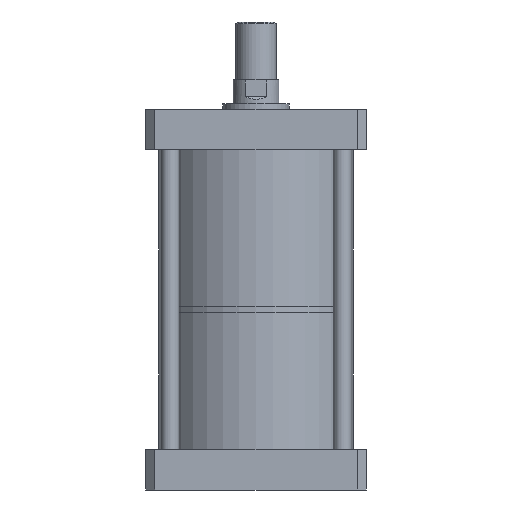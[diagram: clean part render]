
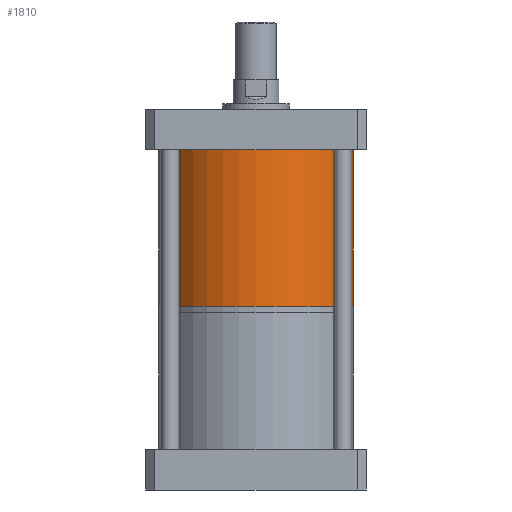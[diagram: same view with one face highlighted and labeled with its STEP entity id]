
A CAD part, front view. The second image highlights one B-rep face of the part: STEP entity #1810.
In plain terms, the highlighted cylindrical face has radius 53 mm (diameter 106 mm), a partial arc.
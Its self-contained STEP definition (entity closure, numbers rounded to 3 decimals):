
#19 = CIRCLE ( 'NONE', #3684, 53. ) ;
#214 = EDGE_CURVE ( 'NONE', #262, #695, #19, .T. ) ;
#262 = VERTEX_POINT ( 'NONE', #2976 ) ;
#265 = DIRECTION ( 'NONE',  ( -1., 0., 0. ) ) ;
#385 = ORIENTED_EDGE ( 'NONE', *, *, #2845, .T. ) ;
#563 = CARTESIAN_POINT ( 'NONE',  ( 24.746, 0., 0. ) ) ;
#602 = FACE_OUTER_BOUND ( 'NONE', #3369, .T. ) ;
#695 = VERTEX_POINT ( 'NONE', #1117 ) ;
#751 = VECTOR ( 'NONE', #760, 1000. ) ;
#760 = DIRECTION ( 'NONE',  ( 0., 0., 1. ) ) ;
#776 = CARTESIAN_POINT ( 'NONE',  ( -28.254, 0., -85. ) ) ;
#869 = ORIENTED_EDGE ( 'NONE', *, *, #3006, .T. ) ;
#1117 = CARTESIAN_POINT ( 'NONE',  ( -28.254, 0., -85. ) ) ;
#1159 = CARTESIAN_POINT ( 'NONE',  ( -28.254, 0., 0. ) ) ;
#1354 = ORIENTED_EDGE ( 'NONE', *, *, #1921, .F. ) ;
#1436 = AXIS2_PLACEMENT_3D ( 'NONE', #1546, #1582, #1612 ) ;
#1546 = CARTESIAN_POINT ( 'NONE',  ( 24.746, 0., -85. ) ) ;
#1582 = DIRECTION ( 'NONE',  ( 0., 0., 1. ) ) ;
#1612 = DIRECTION ( 'NONE',  ( 1., 0., 0. ) ) ;
#1755 = CIRCLE ( 'NONE', #2677, 53. ) ;
#1810 = ADVANCED_FACE ( 'NONE', ( #602 ), #3616, .T. ) ;
#1921 = EDGE_CURVE ( 'NONE', #695, #2366, #3166, .T. ) ;
#2192 = VECTOR ( 'NONE', #3336, 1000. ) ;
#2366 = VERTEX_POINT ( 'NONE', #1159 ) ;
#2374 = DIRECTION ( 'NONE',  ( 0., 0., -1. ) ) ;
#2677 = AXIS2_PLACEMENT_3D ( 'NONE', #563, #2374, #265 ) ;
#2845 = EDGE_CURVE ( 'NONE', #3063, #2366, #1755, .T. ) ;
#2976 = CARTESIAN_POINT ( 'NONE',  ( 77.746, 0., -85. ) ) ;
#2993 = ORIENTED_EDGE ( 'NONE', *, *, #214, .F. ) ;
#3006 = EDGE_CURVE ( 'NONE', #262, #3063, #3692, .T. ) ;
#3039 = DIRECTION ( 'NONE',  ( -1., 0., 0. ) ) ;
#3046 = DIRECTION ( 'NONE',  ( 0., 0., -1. ) ) ;
#3052 = CARTESIAN_POINT ( 'NONE',  ( 24.746, 0., -85. ) ) ;
#3063 = VERTEX_POINT ( 'NONE', #3666 ) ;
#3166 = LINE ( 'NONE', #776, #751 ) ;
#3336 = DIRECTION ( 'NONE',  ( 0., 0., 1. ) ) ;
#3369 = EDGE_LOOP ( 'NONE', ( #1354, #2993, #869, #385 ) ) ;
#3616 = CYLINDRICAL_SURFACE ( 'NONE', #1436, 53. ) ;
#3619 = CARTESIAN_POINT ( 'NONE',  ( 77.746, 0., -85. ) ) ;
#3666 = CARTESIAN_POINT ( 'NONE',  ( 77.746, 0., 0. ) ) ;
#3684 = AXIS2_PLACEMENT_3D ( 'NONE', #3052, #3046, #3039 ) ;
#3692 = LINE ( 'NONE', #3619, #2192 ) ;
